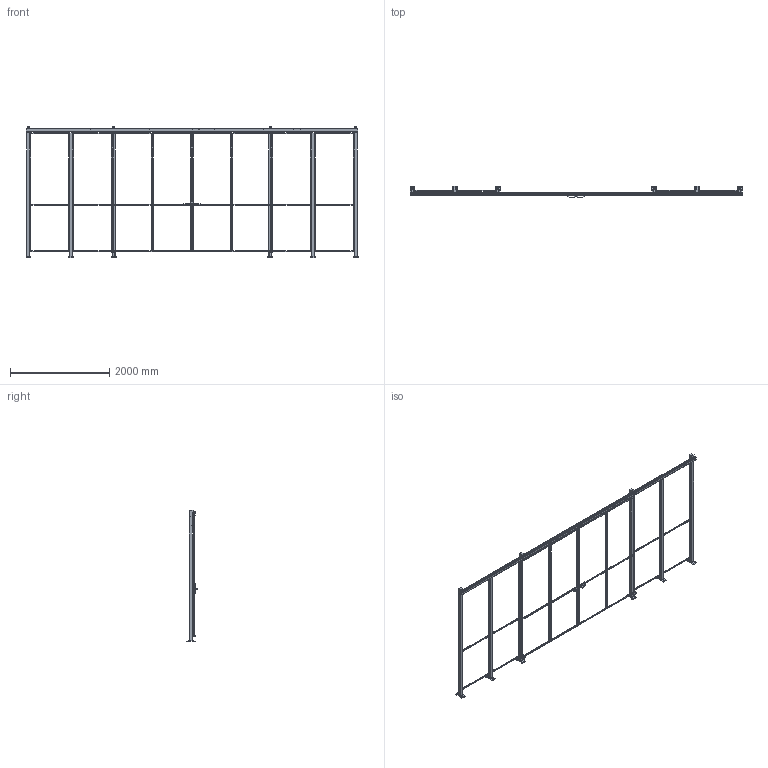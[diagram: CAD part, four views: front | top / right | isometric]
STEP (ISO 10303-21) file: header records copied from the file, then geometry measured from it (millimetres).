
FILE_DESCRIPTION(/* description */ (''),/* implementation_level */ '2;1');
FILE_NAME(/* name */ 'C:\SafeGuarding\ELABORATI\HOR§VED_2025-04-01-12-49-51.stp',/* time_stamp */ '2025-04-01T12:49:52+02:00',/* author */ ('admin'),/* organization */ (''),/* preprocessor_version */ 'ST-DEVELOPER v18.1',/* originating_system */ 'AutoCAD Mechanical',/* authorisation */ '');
FILE_SCHEMA (('AUTOMOTIVE_DESIGN { 1 0 10303 214 3 1 1 }','AP242_MANAGED_MODEL_BASED_3D_ENGINEERING_MIM_LF { 1 0 10303 442 1 1 4 }'));
Length unit declared in the file: millimetre
Products named in the file (3): Product; VFPA.REPE2008002400; P_VFMA.V260SDU.2520
Assembly tree (14 placements, depth 2):
  Product
    VFPA.REPE2008002400  x8
    P_VFMA.V260SDU.2520  x6
Bounding box: 6699.99 x 235.91 x 2654 mm (x, y, z)
Volume: 93463794 mm3; surface area: 12985703.4 mm2
Topology: 52 solids, 74 shells, 746 faces, 2776 edges, 2908 vertices
Faces by surface type: plane 682, cylinder 64
Full cylindrical faces by diameter (mm): 11 x24, 12 x4, 14 x4, 15 x8, 40 x8
Entity records: 17584 total; most frequent: CARTESIAN_POINT 3659, ORIENTED_EDGE 2676, DIRECTION 2622, EDGE_CURVE 1436, LINE 1272, VECTOR 1272, VERTEX_POINT 1040, AXIS2_PLACEMENT_3D 675
